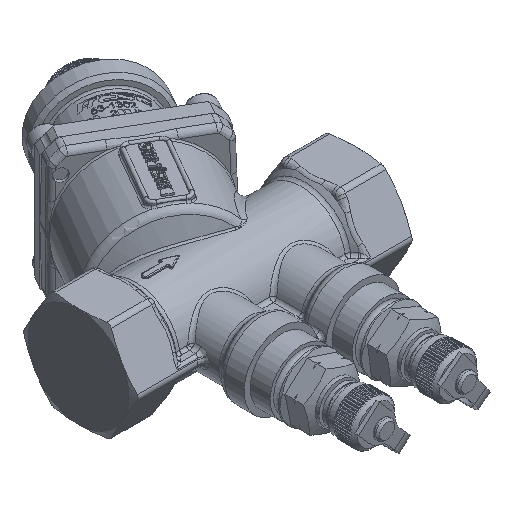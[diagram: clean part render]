
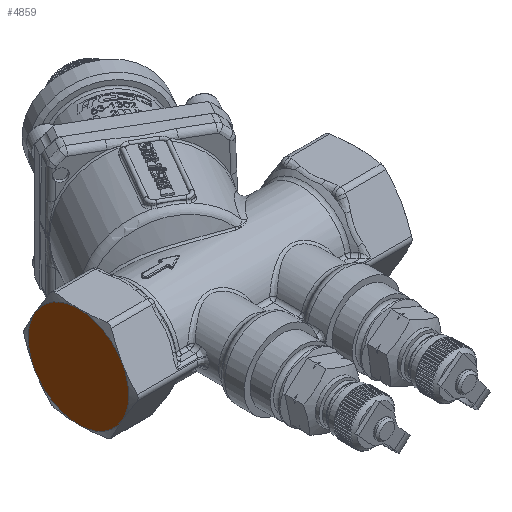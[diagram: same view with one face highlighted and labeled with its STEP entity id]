
A CAD part, isometric view. The second image highlights one B-rep face of the part: STEP entity #4859.
In plain terms, the highlighted planar face has unit normal (-1, 0, 0).
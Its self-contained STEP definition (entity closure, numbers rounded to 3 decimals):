
#4798=CARTESIAN_POINT('',(-28.0,40.239,-19.123));
#4799=DIRECTION('',(1.0,0.0,0.0));
#4800=DIRECTION('',(0.0,0.0,-1.0));
#4801=AXIS2_PLACEMENT_3D('',#4798,#4799,#4800);
#4802=PLANE('',#4801);
#4803=CARTESIAN_POINT('',(-28.0,11.691,6.75));
#4804=VERTEX_POINT('',#4803);
#4805=CARTESIAN_POINT('',(-28.0,11.691,-6.75));
#4806=VERTEX_POINT('',#4805);
#4807=CARTESIAN_POINT('',(-28.0,0.0,0.0));
#4808=DIRECTION('',(-1.0,0.0,0.0));
#4809=DIRECTION('',(0.0,1.0,0.0));
#4810=AXIS2_PLACEMENT_3D('',#4807,#4808,#4809);
#4811=CIRCLE('',#4810,13.5);
#4812=EDGE_CURVE('',#4804,#4806,#4811,.T.);
#4813=ORIENTED_EDGE('',*,*,#4812,.T.);
#4814=CARTESIAN_POINT('',(-28.0,0.,-13.5));
#4815=VERTEX_POINT('',#4814);
#4816=CARTESIAN_POINT('',(-28.0,0.0,0.0));
#4817=DIRECTION('',(-1.0,0.0,0.0));
#4818=DIRECTION('',(0.0,1.0,0.0));
#4819=AXIS2_PLACEMENT_3D('',#4816,#4817,#4818);
#4820=CIRCLE('',#4819,13.5);
#4821=EDGE_CURVE('',#4806,#4815,#4820,.T.);
#4822=ORIENTED_EDGE('',*,*,#4821,.T.);
#4823=CARTESIAN_POINT('',(-28.0,-11.691,-6.75));
#4824=VERTEX_POINT('',#4823);
#4825=CARTESIAN_POINT('',(-28.0,0.0,0.0));
#4826=DIRECTION('',(-1.0,0.0,0.0));
#4827=DIRECTION('',(0.0,1.0,0.0));
#4828=AXIS2_PLACEMENT_3D('',#4825,#4826,#4827);
#4829=CIRCLE('',#4828,13.5);
#4830=EDGE_CURVE('',#4815,#4824,#4829,.T.);
#4831=ORIENTED_EDGE('',*,*,#4830,.T.);
#4832=CARTESIAN_POINT('',(-28.0,-11.691,6.75));
#4833=VERTEX_POINT('',#4832);
#4834=CARTESIAN_POINT('',(-28.0,0.0,0.0));
#4835=DIRECTION('',(-1.0,0.0,0.0));
#4836=DIRECTION('',(0.0,1.0,0.0));
#4837=AXIS2_PLACEMENT_3D('',#4834,#4835,#4836);
#4838=CIRCLE('',#4837,13.5);
#4839=EDGE_CURVE('',#4824,#4833,#4838,.T.);
#4840=ORIENTED_EDGE('',*,*,#4839,.T.);
#4841=CARTESIAN_POINT('',(-28.0,0.0,13.5));
#4842=VERTEX_POINT('',#4841);
#4843=CARTESIAN_POINT('',(-28.0,0.0,0.0));
#4844=DIRECTION('',(-1.0,0.0,0.0));
#4845=DIRECTION('',(0.0,1.0,0.0));
#4846=AXIS2_PLACEMENT_3D('',#4843,#4844,#4845);
#4847=CIRCLE('',#4846,13.5);
#4848=EDGE_CURVE('',#4833,#4842,#4847,.T.);
#4849=ORIENTED_EDGE('',*,*,#4848,.T.);
#4850=CARTESIAN_POINT('',(-28.0,0.0,0.0));
#4851=DIRECTION('',(-1.0,0.0,0.0));
#4852=DIRECTION('',(0.0,1.0,0.0));
#4853=AXIS2_PLACEMENT_3D('',#4850,#4851,#4852);
#4854=CIRCLE('',#4853,13.5);
#4855=EDGE_CURVE('',#4842,#4804,#4854,.T.);
#4856=ORIENTED_EDGE('',*,*,#4855,.T.);
#4857=EDGE_LOOP('',(#4813,#4822,#4831,#4840,#4849,#4856));
#4858=FACE_OUTER_BOUND('',#4857,.T.);
#4859=ADVANCED_FACE('',(#4858),#4802,.F.);
